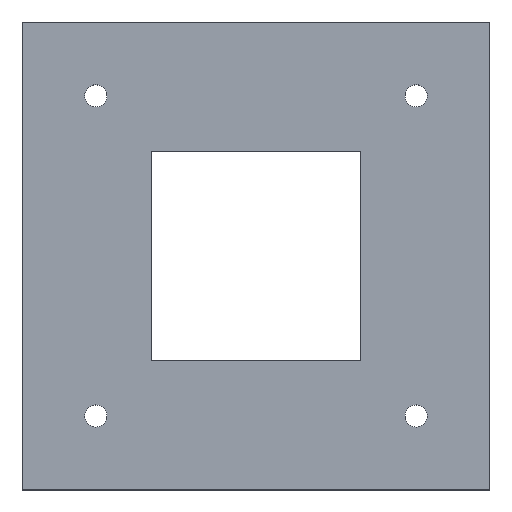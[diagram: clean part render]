
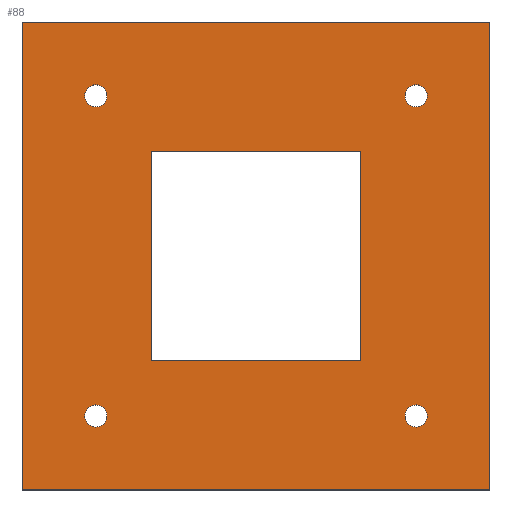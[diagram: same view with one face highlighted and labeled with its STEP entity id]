
A CAD part, top view. The second image highlights one B-rep face of the part: STEP entity #88.
In plain terms, the highlighted planar face has unit normal (0, 0, 1).
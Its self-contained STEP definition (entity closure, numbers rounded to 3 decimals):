
#24 = VERTEX_POINT('',#25);
#25 = CARTESIAN_POINT('',(-19.,-19.,2.4));
#40 = VERTEX_POINT('',#41);
#41 = CARTESIAN_POINT('',(-19.,19.,2.4));
#47 = EDGE_CURVE('',#24,#40,#48,.T.);
#48 = LINE('',#49,#50);
#49 = CARTESIAN_POINT('',(-19.,-19.,2.4));
#50 = VECTOR('',#51,1.);
#51 = DIRECTION('',(0.,1.,0.));
#70 = EDGE_CURVE('',#24,#71,#73,.T.);
#71 = VERTEX_POINT('',#72);
#72 = CARTESIAN_POINT('',(19.,-19.,2.4));
#73 = LINE('',#74,#75);
#74 = CARTESIAN_POINT('',(-19.,-19.,2.4));
#75 = VECTOR('',#76,1.);
#76 = DIRECTION('',(1.,0.,0.));
#88 = ADVANCED_FACE('',(#89,#107,#118,#129,#140,#174),#185,.T.);
#89 = FACE_BOUND('',#90,.T.);
#90 = EDGE_LOOP('',(#91,#92,#93,#101));
#91 = ORIENTED_EDGE('',*,*,#47,.F.);
#92 = ORIENTED_EDGE('',*,*,#70,.T.);
#93 = ORIENTED_EDGE('',*,*,#94,.T.);
#94 = EDGE_CURVE('',#71,#95,#97,.T.);
#95 = VERTEX_POINT('',#96);
#96 = CARTESIAN_POINT('',(19.,19.,2.4));
#97 = LINE('',#98,#99);
#98 = CARTESIAN_POINT('',(19.,-19.,2.4));
#99 = VECTOR('',#100,1.);
#100 = DIRECTION('',(0.,1.,0.));
#101 = ORIENTED_EDGE('',*,*,#102,.F.);
#102 = EDGE_CURVE('',#40,#95,#103,.T.);
#103 = LINE('',#104,#105);
#104 = CARTESIAN_POINT('',(-19.,19.,2.4));
#105 = VECTOR('',#106,1.);
#106 = DIRECTION('',(1.,0.,0.));
#107 = FACE_BOUND('',#108,.T.);
#108 = EDGE_LOOP('',(#109));
#109 = ORIENTED_EDGE('',*,*,#110,.F.);
#110 = EDGE_CURVE('',#111,#111,#113,.T.);
#111 = VERTEX_POINT('',#112);
#112 = CARTESIAN_POINT('',(-12.1,-13.,2.4));
#113 = CIRCLE('',#114,0.9);
#114 = AXIS2_PLACEMENT_3D('',#115,#116,#117);
#115 = CARTESIAN_POINT('',(-13.,-13.,2.4));
#116 = DIRECTION('',(0.,0.,1.));
#117 = DIRECTION('',(1.,0.,0.));
#118 = FACE_BOUND('',#119,.T.);
#119 = EDGE_LOOP('',(#120));
#120 = ORIENTED_EDGE('',*,*,#121,.F.);
#121 = EDGE_CURVE('',#122,#122,#124,.T.);
#122 = VERTEX_POINT('',#123);
#123 = CARTESIAN_POINT('',(13.9,-13.,2.4));
#124 = CIRCLE('',#125,0.9);
#125 = AXIS2_PLACEMENT_3D('',#126,#127,#128);
#126 = CARTESIAN_POINT('',(13.,-13.,2.4));
#127 = DIRECTION('',(0.,0.,1.));
#128 = DIRECTION('',(1.,0.,0.));
#129 = FACE_BOUND('',#130,.T.);
#130 = EDGE_LOOP('',(#131));
#131 = ORIENTED_EDGE('',*,*,#132,.F.);
#132 = EDGE_CURVE('',#133,#133,#135,.T.);
#133 = VERTEX_POINT('',#134);
#134 = CARTESIAN_POINT('',(-12.1,13.,2.4));
#135 = CIRCLE('',#136,0.9);
#136 = AXIS2_PLACEMENT_3D('',#137,#138,#139);
#137 = CARTESIAN_POINT('',(-13.,13.,2.4));
#138 = DIRECTION('',(0.,0.,1.));
#139 = DIRECTION('',(1.,0.,0.));
#140 = FACE_BOUND('',#141,.T.);
#141 = EDGE_LOOP('',(#142,#152,#160,#168));
#142 = ORIENTED_EDGE('',*,*,#143,.T.);
#143 = EDGE_CURVE('',#144,#146,#148,.T.);
#144 = VERTEX_POINT('',#145);
#145 = CARTESIAN_POINT('',(8.5,-8.5,2.4));
#146 = VERTEX_POINT('',#147);
#147 = CARTESIAN_POINT('',(-8.5,-8.5,2.4));
#148 = LINE('',#149,#150);
#149 = CARTESIAN_POINT('',(-13.75,-8.5,2.4));
#150 = VECTOR('',#151,1.);
#151 = DIRECTION('',(-1.,0.,0.));
#152 = ORIENTED_EDGE('',*,*,#153,.T.);
#153 = EDGE_CURVE('',#146,#154,#156,.T.);
#154 = VERTEX_POINT('',#155);
#155 = CARTESIAN_POINT('',(-8.5,8.5,2.4));
#156 = LINE('',#157,#158);
#157 = CARTESIAN_POINT('',(-8.5,-13.75,2.4));
#158 = VECTOR('',#159,1.);
#159 = DIRECTION('',(0.,1.,0.));
#160 = ORIENTED_EDGE('',*,*,#161,.F.);
#161 = EDGE_CURVE('',#162,#154,#164,.T.);
#162 = VERTEX_POINT('',#163);
#163 = CARTESIAN_POINT('',(8.5,8.5,2.4));
#164 = LINE('',#165,#166);
#165 = CARTESIAN_POINT('',(-13.75,8.5,2.4));
#166 = VECTOR('',#167,1.);
#167 = DIRECTION('',(-1.,0.,0.));
#168 = ORIENTED_EDGE('',*,*,#169,.F.);
#169 = EDGE_CURVE('',#144,#162,#170,.T.);
#170 = LINE('',#171,#172);
#171 = CARTESIAN_POINT('',(8.5,-13.75,2.4));
#172 = VECTOR('',#173,1.);
#173 = DIRECTION('',(0.,1.,0.));
#174 = FACE_BOUND('',#175,.T.);
#175 = EDGE_LOOP('',(#176));
#176 = ORIENTED_EDGE('',*,*,#177,.F.);
#177 = EDGE_CURVE('',#178,#178,#180,.T.);
#178 = VERTEX_POINT('',#179);
#179 = CARTESIAN_POINT('',(13.9,13.,2.4));
#180 = CIRCLE('',#181,0.9);
#181 = AXIS2_PLACEMENT_3D('',#182,#183,#184);
#182 = CARTESIAN_POINT('',(13.,13.,2.4));
#183 = DIRECTION('',(0.,0.,1.));
#184 = DIRECTION('',(1.,0.,0.));
#185 = PLANE('',#186);
#186 = AXIS2_PLACEMENT_3D('',#187,#188,#189);
#187 = CARTESIAN_POINT('',(-19.,-19.,2.4));
#188 = DIRECTION('',(0.,0.,1.));
#189 = DIRECTION('',(1.,0.,0.));
